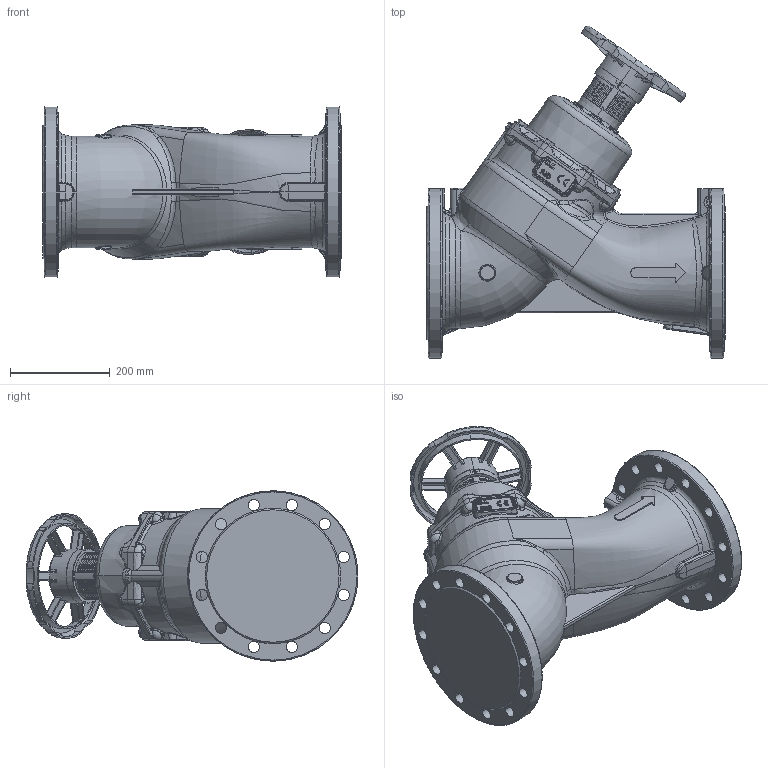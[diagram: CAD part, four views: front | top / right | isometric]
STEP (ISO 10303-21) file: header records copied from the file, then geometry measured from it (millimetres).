
FILE_DESCRIPTION (( 'STEP AP203' ), '1' );
FILE_NAME ('EKOFLUX.S020016P2.STEP', '2022-06-21T14:57:21', ( '' ), ( '' ), 'SwSTEP 2.0', 'SolidWorks 2017', '' );
FILE_SCHEMA (( 'CONFIG_CONTROL_DESIGN' ));
Products named in the file (1): EKOFLUX.S020016P2
Bounding box: 600 x 666.95 x 341.9 mm (x, y, z)
Volume: 36425917.4 mm3; surface area: 1322439.5 mm2
Topology: 1 solids, 25 shells, 3106 faces, 7853 edges, 4890 vertices
Faces by surface type: plane 1130, bspline 951, cylinder 581, cone 238, torus 164, sphere 42
Entity records: 175702 total; most frequent: CARTESIAN_POINT 108651, ORIENTED_EDGE 15512, DIRECTION 11588, EDGE_CURVE 7756, VERTEX_POINT 4887, AXIS2_PLACEMENT_3D 4385, EDGE_LOOP 3377, ADVANCED_FACE 3106
